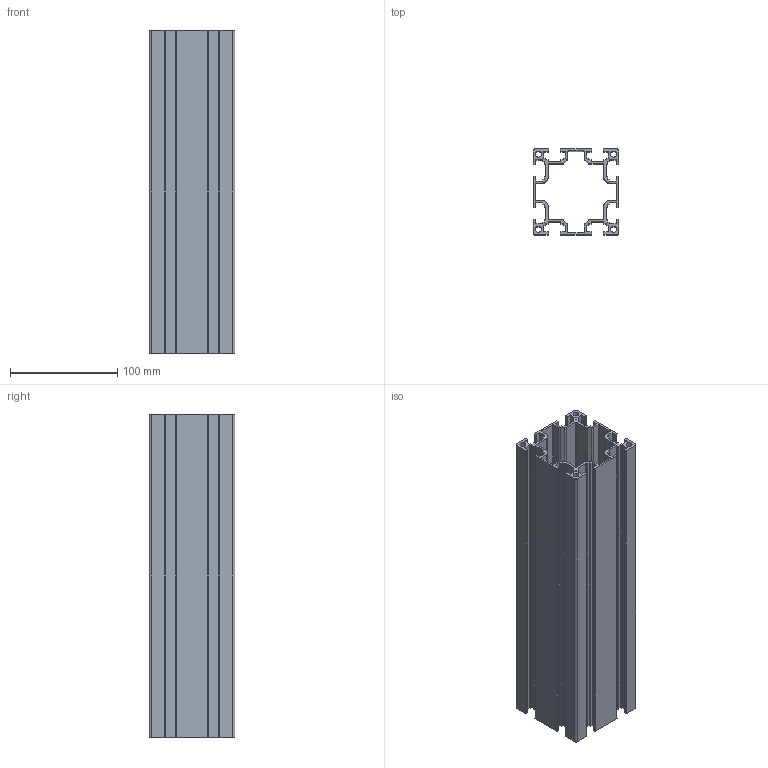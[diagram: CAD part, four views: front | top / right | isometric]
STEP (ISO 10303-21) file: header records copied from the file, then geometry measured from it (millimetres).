
FILE_DESCRIPTION(/* description */ ('PROFIL 80x80'),/* implementation_level */ '2;1');
FILE_NAME(/* name */ '\\carryline.intra\privat\users\mathias\Desktop\Tillfälliga filer\100-1030.stp',/* time_stamp */ '2018-11-19T08:42:58+01:00',/* author */ ('PL'),/* organization */ ('CARRYLINE'),/* preprocessor_version */ 'ST-DEVELOPER v17',/* originating_system */ 'Autodesk Inventor 2018',/* authorisation */ '');
FILE_SCHEMA (('AUTOMOTIVE_DESIGN { 1 0 10303 214 3 1 1 }'));
Length unit declared in the file: millimetre
Products named in the file (1): 100-1030
Bounding box: 80 x 80 x 300 mm (x, y, z)
Volume: 353395 mm3; surface area: 299292.7 mm2
Topology: 1 solids, 1 shells, 262 faces, 780 edges, 520 vertices
Faces by surface type: plane 162, cylinder 100
Full cylindrical faces by diameter (mm): 5.6 x4
Entity records: 8863 total; most frequent: CARTESIAN_POINT 1563, ORIENTED_EDGE 1560, DIRECTION 1506, EDGE_CURVE 780, LINE 580, VECTOR 580, VERTEX_POINT 520, AXIS2_PLACEMENT_3D 463
